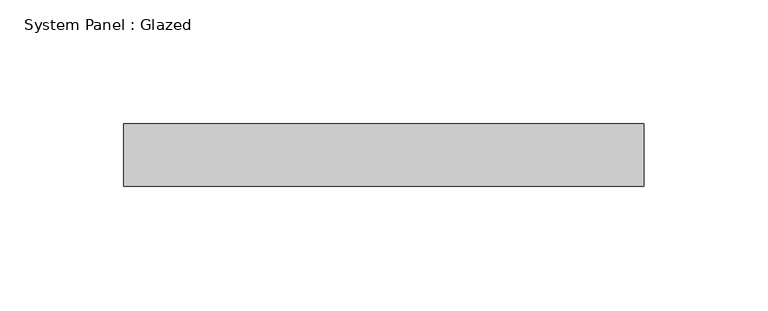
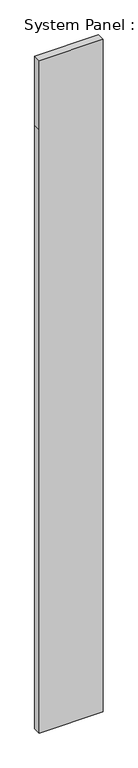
"""IFC4 building model written with IfcOpenShell, lengths in millimetres: plate geometry, System Panel : Glazed."""

import ifcopenshell
import ifcopenshell.guid

model = None  # the IFC model being written
_history = None  # IfcOwnerHistory: only IFC2X3 demands one
_inside = {}  # id of a spatial element -> (the spatial element, [elements in it])
_under = {}  # id of a project, library or spatial element -> (it, [spatial elements below it])
_declared = {}  # id of a project -> (the project, [libraries it declares])
_typed = {}  # id of a type object -> (the type object, [elements of that type])
_made_of = {}  # id of a material, layer set ... -> (it, [elements and type objects made of it])


def new_model(schema):
    """Start an empty IFC model of exactly this schema.

    Asked for "IFC4X3", IfcOpenShell would pick the latest addendum, in which some entities
    have other attributes; the version numbers below select the first issue.
    IFC2X3 requires an IfcOwnerHistory on every rooted entity: one is made here for all.
    """
    global model, _history
    if schema == "IFC4X3":
        model = ifcopenshell.file(schema_version=(4, 3, 0, 0))
    else:
        model = ifcopenshell.file(schema=schema)
    _inside.clear()
    _under.clear()
    _declared.clear()
    _typed.clear()
    _made_of.clear()
    _history = None
    if model.schema == "IFC2X3":
        org = make("IfcOrganization", Name="unknown")
        user = make(
            "IfcPersonAndOrganization",
            ThePerson=make("IfcPerson", FamilyName="unknown"),
            TheOrganization=org,
        )
        app = make(
            "IfcApplication",
            ApplicationDeveloper=org,
            Version="unknown",
            ApplicationFullName="unknown",
            ApplicationIdentifier="unknown",
        )
        _history = make(
            "IfcOwnerHistory",
            OwningUser=user,
            OwningApplication=app,
            ChangeAction="ADDED",
            CreationDate=0,
        )
    return model


def make(cls, **values):
    """One entity of the class cls with the attributes given. An attribute that is None is left unset."""
    return model.create_entity(
        cls, **{name: value for name, value in values.items() if value is not None}
    )


def rooted(cls, **values):
    """An entity with a GlobalId (a new one), such as an element, a storey or a relation."""
    return make(cls, GlobalId=ifcopenshell.guid.new(), OwnerHistory=_history, **values)


def si_unit(unit_type, name, prefix=None):
    """IfcSIUnit, for example si_unit("LENGTHUNIT", "METRE", prefix="MILLI")."""
    return make("IfcSIUnit", UnitType=unit_type, Prefix=prefix, Name=name)


def assignment(units):
    """IfcUnitAssignment: the units of a project."""
    return None if units is None else make("IfcUnitAssignment", Units=units)


def point(xyz):
    """IfcCartesianPoint."""
    return None if xyz is None else make("IfcCartesianPoint", Coordinates=xyz)


def direction(xyz):
    """IfcDirection."""
    return None if xyz is None else make("IfcDirection", DirectionRatios=xyz)


def frame(location, z_axis=None, x_axis=None):
    """IfcAxis2Placement3D, a coordinate frame: its origin and axes. An axis left out is left unset."""
    return make(
        "IfcAxis2Placement3D",
        Location=point(location),
        Axis=direction(z_axis),
        RefDirection=direction(x_axis),
    )


def origin():
    """The frame at (0, 0, 0) with its axes left unset."""
    return frame((0.0, 0.0, 0.0))


def place(relative_to, where):
    """IfcLocalPlacement: puts the frame where relative to a parent placement (None: the world)."""
    return make(
        "IfcLocalPlacement", PlacementRelTo=relative_to, RelativePlacement=where
    )


def context(
    kind, dimensions, precision=None, world=None, true_north=None, identifier=None
):
    """IfcGeometricRepresentationContext, for example the 3D "Model" context."""
    return make(
        "IfcGeometricRepresentationContext",
        ContextIdentifier=identifier,
        ContextType=kind,
        CoordinateSpaceDimension=dimensions,
        Precision=precision,
        WorldCoordinateSystem=world,
        TrueNorth=true_north,
    )


def project(units=None, contexts=None):
    """IfcProject with its units and contexts."""
    return rooted(
        "IfcProject",
        Name="project",
        RepresentationContexts=contexts,
        UnitsInContext=assignment(units),
    )


def spatial(cls, under=None, at=None, **own):
    """A site, building, storey or space (cls), placed at a placement, below another one or the project."""
    s = rooted(cls, ObjectPlacement=at, **own)
    if under is not None:
        _under.setdefault(under.id(), (under, []))[1].append(s)
    return s


def polyline(points):
    """IfcPolyline through the points."""
    return make("IfcPolyline", Points=[point(p) for p in points])


def outline(outer, holes=None, kind="AREA"):
    """IfcArbitraryClosedProfileDef: a profile drawn as a closed curve; with holes, ...WithVoids."""
    if holes is None:
        return make("IfcArbitraryClosedProfileDef", ProfileType=kind, OuterCurve=outer)
    return make(
        "IfcArbitraryProfileDefWithVoids",
        ProfileType=kind,
        OuterCurve=outer,
        InnerCurves=holes,
    )


def extrude(swept, where, along, depth):
    """IfcExtrudedAreaSolid: the profile swept, set in the frame where, extruded along a direction by depth."""
    return make(
        "IfcExtrudedAreaSolid",
        SweptArea=swept,
        Position=where,
        ExtrudedDirection=direction(along),
        Depth=depth,
    )


def shape(context_of_items, identifier, shape_type, items):
    """IfcShapeRepresentation: the items that make up one representation, for example the "Body"."""
    return make(
        "IfcShapeRepresentation",
        ContextOfItems=context_of_items,
        RepresentationIdentifier=identifier,
        RepresentationType=shape_type,
        Items=items,
    )


def source(mapping_origin, context_of_items, identifier, shape_type, items):
    """IfcRepresentationMap: a shape defined once, which mapped items show again and again."""
    return make(
        "IfcRepresentationMap",
        MappingOrigin=mapping_origin,
        MappedRepresentation=shape(context_of_items, identifier, shape_type, items),
    )


def transform(
    local_origin,
    x_axis=None,
    y_axis=None,
    z_axis=None,
    scale=None,
    scale2=None,
    scale3=None,
    uniform=True,
):
    """IfcCartesianTransformationOperator3D, or its non-uniform kind. x_axis, y_axis, z_axis: its Axis1, 2, 3."""
    if uniform:
        return make(
            "IfcCartesianTransformationOperator3D",
            Axis1=direction(x_axis),
            Axis2=direction(y_axis),
            LocalOrigin=point(local_origin),
            Scale=scale,
            Axis3=direction(z_axis),
        )
    return make(
        "IfcCartesianTransformationOperator3DnonUniform",
        Axis1=direction(x_axis),
        Axis2=direction(y_axis),
        LocalOrigin=point(local_origin),
        Scale=scale,
        Axis3=direction(z_axis),
        Scale2=scale2,
        Scale3=scale3,
    )


def mapped(mapping_source, mapping_target):
    """IfcMappedItem: shows the shape of a source again, moved by a transform."""
    return make(
        "IfcMappedItem", MappingSource=mapping_source, MappingTarget=mapping_target
    )


def made_of(thing, what):
    """Note that an element or type object is made of a material, layer set ...; save() writes the relation."""
    if what is not None:
        _made_of.setdefault(what.id(), (what, []))[1].append(thing)
    return thing


def element(
    cls,
    number,
    at=None,
    inside=None,
    cuts=None,
    type_object=None,
    material=None,
    context=None,
    identifier="Body",
    shape_type=None,
    held_by="IfcProductDefinitionShape",
    body=None,
    shapes=None,
    **own,
):
    """One element of the class cls, such as IfcWall. Its Tag is "e" and its number.

    at: its placement. inside: the storey or other place that contains it. cuts: it is an
    opening in that element (IfcRelVoidsElement). A single representation is given by context,
    identifier, shape_type and body (its items); several are given by shapes. held_by: the class
    of the entity that holds the representations. save() writes the other relations.
    """
    e = rooted(cls, Tag="e%d" % number, ObjectPlacement=at, **own)
    if body is not None:
        shapes = [shape(context, identifier, shape_type, body)]
    if shapes is not None:
        e.Representation = make(held_by, Representations=shapes)
    if inside is not None:
        _inside.setdefault(inside.id(), (inside, []))[1].append(e)
    if cuts is not None:
        rooted(
            "IfcRelVoidsElement", RelatingBuildingElement=cuts, RelatedOpeningElement=e
        )
    if type_object is not None:
        _typed.setdefault(type_object.id(), (type_object, []))[1].append(e)
    return made_of(e, material)


def aggregate(whole, parts):
    """IfcRelAggregates: a whole, such as a stair, and the parts it consists of."""
    return rooted("IfcRelAggregates", RelatingObject=whole, RelatedObjects=parts)


def save(model, path):
    """Write the relations noted so far, then the file.

    IfcRelAggregates (storeys below a building ...), IfcRelContainedInSpatialStructure (elements
    in a storey), IfcRelDefinesByType, IfcRelAssociatesMaterial and IfcRelDeclares: one each for
    every whole, place, type object, material and project.
    """
    for whole, parts in _under.values():
        aggregate(whole, parts)
    for where, things in _inside.values():
        rooted(
            "IfcRelContainedInSpatialStructure",
            RelatedElements=things,
            RelatingStructure=where,
        )
    for kind, things in _typed.values():
        rooted("IfcRelDefinesByType", RelatedObjects=things, RelatingType=kind)
    for what, things in _made_of.values():
        rooted("IfcRelAssociatesMaterial", RelatedObjects=things, RelatingMaterial=what)
    for by, libraries in _declared.values():
        rooted("IfcRelDeclares", RelatingContext=by, RelatedDefinitions=libraries)
    model.write(path)


def system_panel_glazed_4de51809(model_context):
    return source(origin(), model_context, "Body", "SweptSolid", [
        extrude(outline(polyline([(0.0, -105.4575643), (0.0, 105.4575643), (2101.85, 105.4575643), (2343.15, 105.4575643), (2343.15, -105.4575643), (2101.85, -105.4575643), (0.0, -105.4575643)])), frame((0.0, 19.05, 0.0), z_axis=(0.0, 1.0, 0.0), x_axis=(0.0, 0.0, 1.0)), (0.0, 0.0, 1.0), 25.4),
    ])


if __name__ == "__main__":
    model = new_model("IFC4")
    model_context = context("Model", 3, world=origin())
    ifc_project = project(units=[si_unit("LENGTHUNIT", "METRE", prefix="MILLI")], contexts=[model_context])
    site = spatial("IfcSite", under=ifc_project)
    building = spatial("IfcBuilding", under=site)
    placement = place(None, origin())
    system_panel_glazed_shape = system_panel_glazed_4de51809(model_context)
    element("IfcPlate", 1, ObjectType="System Panel : Glazed", at=placement, inside=building, context=model_context, shape_type="MappedRepresentation", body=[
        mapped(system_panel_glazed_shape, transform((0.0, 0.0, 0.0), x_axis=(1.0, 0.0, 0.0), y_axis=(0.0, 1.0, 0.0), z_axis=(0.0, 0.0, 1.0))),
    ])
    save(model, "model.ifc")
